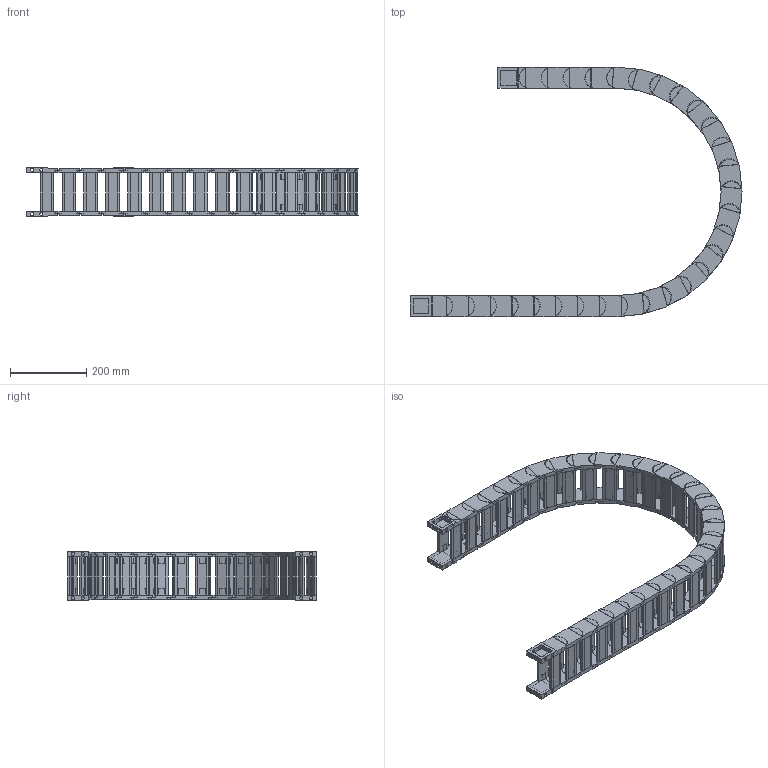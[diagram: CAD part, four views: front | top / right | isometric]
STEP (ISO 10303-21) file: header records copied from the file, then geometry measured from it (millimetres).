
FILE_DESCRIPTION((''),'2;1');
FILE_NAME('HD35-R300-ZPT_ASM','2022-06-17T11:41:42',('admin'),(''),'CREO PARAMETRIC BY PTC INC, 2021164','CREO PARAMETRIC BY PTC INC, 2021164','');
FILE_SCHEMA(('CONFIG_CONTROL_DESIGN','GEOMETRIC_VALIDATION_PROPERTIES_MIM'));
Length unit declared in the file: millimetre
Products named in the file (6): HD35; 35-600001; HD35_ASM; 35-TL_11; 35-WL; HD35-R300-ZPT_ASM
Assembly tree (34 placements, depth 3):
  HD35-R300-ZPT_ASM
    HD35_ASM  x28
      HD35
      35-600001
    35-TL_11
    35-WL
    35-600001  x2
Bounding box: 872.5 x 655 x 128.3 mm (x, y, z)
Volume: 4161253.6 mm3; surface area: 1487519.9 mm2
Topology: 120 solids, 120 shells, 2218 faces, 5906 edges, 4052 vertices
Faces by surface type: plane 1518, cylinder 700
Entity records: 9527 total; most frequent: DIRECTION 1442, CARTESIAN_POINT 1432, ORIENTED_EDGE 1300, EDGE_CURVE 650, AXIS2_PLACEMENT_3D 516, VERTEX_POINT 440, VECTOR 410, LINE 410
